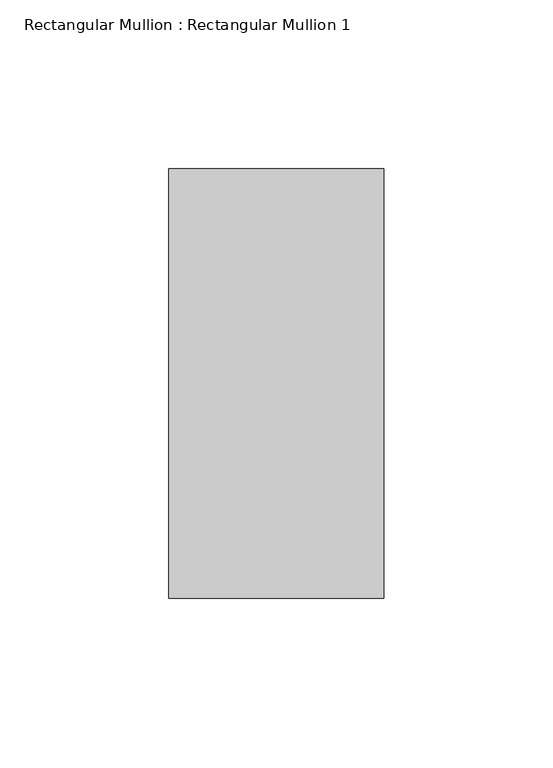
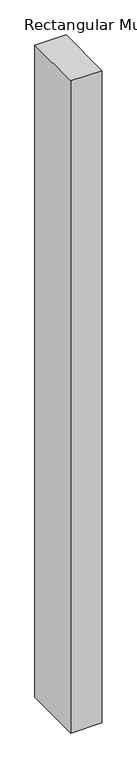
"""IFC4 building model written with IfcOpenShell, lengths in millimetres: member geometry, Rectangular Mullion : Rectangular Mullion 1."""

from ifc_helpers import new_model, si_unit, frame, origin, place, context, project, spatial, polyline, outline, extrude, source, transform, mapped, element, save


def rectangular_mullion_rectangular_mullion_1_f78abf84(model_context):
    return source(origin(), model_context, "Body", "SweptSolid", [
        extrude(outline(polyline([(0.0, 63.5), (0.0, -63.5), (-63.5, -63.5), (-63.5, 63.5), (0.0, 63.5)])), frame((0.0, 0.0, -1408.2500002), z_axis=(0.0, 0.0, 1.0), x_axis=(1.0, 0.0, 0.0)), (0.0, 0.0, 1.0), 1408.2500002),
    ])


if __name__ == "__main__":
    model = new_model("IFC4")
    model_context = context("Model", 3, world=origin())
    ifc_project = project(units=[si_unit("LENGTHUNIT", "METRE", prefix="MILLI")], contexts=[model_context])
    site = spatial("IfcSite", under=ifc_project)
    building = spatial("IfcBuilding", under=site)
    placement = place(None, origin())
    rectangular_mullion_rectangular_mullion_1_shape = rectangular_mullion_rectangular_mullion_1_f78abf84(model_context)
    element("IfcMember", 1, ObjectType="Rectangular Mullion : Rectangular Mullion 1", at=placement, inside=building, context=model_context, shape_type="MappedRepresentation", body=[
        mapped(rectangular_mullion_rectangular_mullion_1_shape, transform((0.0, 0.0, 0.0), x_axis=(1.0, 0.0, 0.0), y_axis=(0.0, 1.0, 0.0), z_axis=(0.0, 0.0, 1.0))),
    ])
    save(model, "model.ifc")
